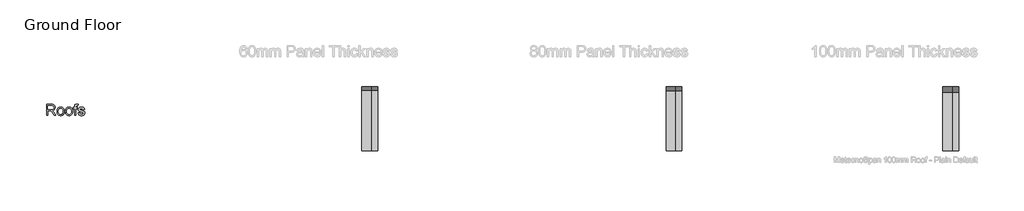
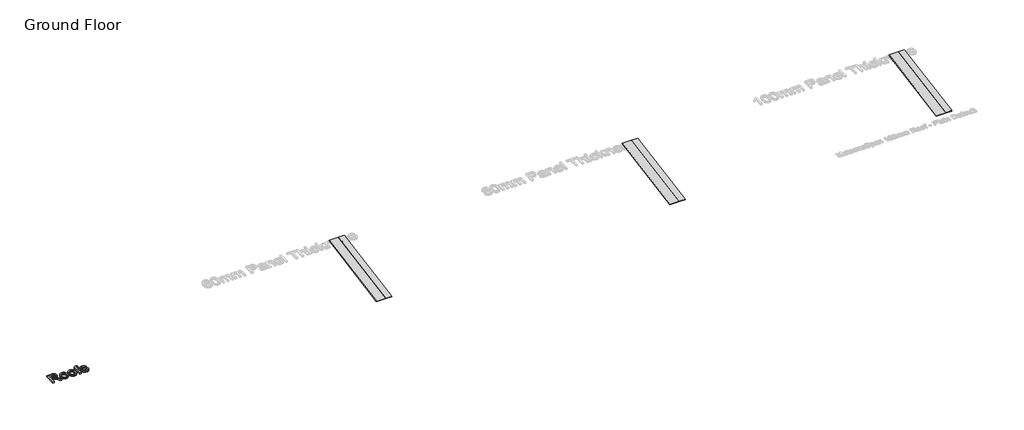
# One storey, part 1 of 5: 6 plates, 1 proxy.
"""IFC4 building model written with IfcOpenShell, lengths in millimetres."""

from ifc_helpers import new_model, si_unit, origin, origin_with_axes, place, context, project, spatial, polyline, outline, extrude, transform, mapped, element, save
from components import system_panel_77eb090d, system_panel_3f59478d, system_panel_bf3a755d, system_panel_f6465c84, system_panel_ab85e6cc, system_panel_8b37a0bf

model = new_model("IFC4")

# Units and contexts
model_context = context("Model", 3, world=origin())
ifc_project = project(units=[si_unit("LENGTHUNIT", "METRE", prefix="MILLI")], contexts=[model_context])

# Site, building, storey
site = spatial("IfcSite", under=ifc_project)
building = spatial("IfcBuilding", under=site)
storey = spatial("IfcBuildingStorey", under=building, Name="Ground Floor", Elevation=0.0)

# Proxy
placement = place(None, origin())
element("IfcBuildingElementProxy", 1, Name="1200mm Arial", ObjectType="1200mm Arial", at=placement, inside=storey, context=model_context, shape_type="SweptSolid", body=[
    extrude(outline(polyline([(-68339.0967284, -43768.1466097), (-68339.0967284, -42592.8738825), (-67832.6620693, -42592.8738825), (-67759.9696865, -42594.8555053), (-67696.5487881, -42600.8003739), (-67642.399374, -42610.7084883), (-67597.5214443, -42624.5798484), (-67559.3057128, -42643.4814819), (-67525.1428932, -42668.4804166), (-67495.0329855, -42699.5766524), (-67468.9759898, -42736.7701893), (-67447.9492675, -42778.0614712), (-67432.9301801, -42821.4509421), (-67423.9187277, -42866.9386019), (-67420.9149102, -42914.5244506), (-67425.8913839, -42974.8877319), (-67440.8208051, -43030.3014393), (-67465.7031737, -43080.7655728), (-67500.5384898, -43126.2801325), (-67521.8005858, -43146.818174), (-67545.7750842, -43165.3925259), (-67601.8612881, -43196.6501609), (-67668.7971013, -43220.0530373), (-67746.5825238, -43235.6011552), (-67698.1627795, -43267.2353881), (-67663.0853648, -43298.4392234), (-67602.9014159, -43369.8135131), (-67544.0086602, -43449.6522916), (-67348.0342284, -43768.1466097), (-67518.7586602, -43768.1466097), (-67671.6933193, -43524.5414961), (-67732.8815295, -43431.575587), (-67782.1620693, -43363.2858143), (-67823.2291858, -43316.2648626), (-67859.7771261, -43287.1054166), (-67894.3882767, -43269.9971069), (-67929.6450238, -43259.1295643), (-67964.0051091, -43255.2559847), (-68014.8637738, -43253.9647916), (-68192.1876375, -43253.9647916), (-68192.1876375, -43768.1466097), (-68339.0967284, -43768.1466097)]), holes=[polyline([(-68192.1876375, -43107.0557006), (-67863.3637738, -43107.0557006), (-67768.9273392, -43101.8550614), (-67729.64458, -43095.3542624), (-67695.6521261, -43086.2531438), (-67666.187815, -43074.2916737), (-67640.4894841, -43059.20982), (-67618.5571332, -43041.0075828), (-67600.3907625, -43019.684962), (-67586.1428044, -42996.2910522), (-67575.9656915, -42971.8749478), (-67569.8594237, -42946.4366488), (-67567.8240011, -42919.9761552), (-67571.7065473, -42882.4060203), (-67583.3541858, -42848.3149336), (-67602.7669166, -42817.7028953), (-67629.9447398, -42790.5699052), (-67665.5153186, -42768.3506225), (-67710.1063165, -42752.4797063), (-67763.7177334, -42742.9571566), (-67826.3495693, -42739.7829734), (-68192.1876375, -42739.7829734), (-68192.1876375, -43107.0557006)])]), origin_with_axes(), (0.0, 0.0, 1.0), 150.0),
    extrude(outline(polyline([(-67218.9149102, -43336.6011552), (-67216.928804, -43278.7799105), (-67210.9704855, -43224.8232788), (-67201.0399546, -43174.73126), (-67187.1372113, -43128.5038541), (-67169.2622557, -43086.1410611), (-67147.4150878, -43047.642881), (-67121.5957074, -43013.0093139), (-67091.8041148, -42982.2403597), (-67064.5366254, -42959.846228), (-67035.8165437, -42940.4379805), (-67005.6438697, -42924.0156172), (-66974.0186034, -42910.5791381), (-66940.9407447, -42900.1285433), (-66906.4102937, -42892.6638328), (-66832.9916148, -42886.6920643), (-66791.4963422, -42888.5100464), (-66751.9423427, -42893.9639926), (-66714.3296164, -42903.0539029), (-66678.6581631, -42915.7797774), (-66644.9279828, -42932.141616), (-66613.1390757, -42952.1394187), (-66583.2914416, -42975.7731856), (-66555.3850807, -43003.0429166), (-66530.132839, -43033.518214), (-66508.2475629, -43066.7686801), (-66489.7292524, -43102.7943148), (-66474.5779074, -43141.5951183), (-66462.7935279, -43183.1710904), (-66454.376114, -43227.5222312), (-66449.3256657, -43274.6485407), (-66447.6421829, -43324.5500188), (-66450.6191006, -43403.1872703), (-66459.5498534, -43472.9655018), (-66474.4344415, -43533.8847134), (-66495.2728648, -43585.9449052), (-66521.8050913, -43630.9125011), (-66553.7710892, -43670.5539251), (-66591.1708584, -43704.8691772), (-66634.0043988, -43733.8582575), (-66680.6039194, -43756.8935025), (-66729.301629, -43773.3472489), (-66780.0975274, -43783.2194968), (-66832.9916148, -43786.5102461), (-66875.1414505, -43784.698989), (-66915.2244805, -43779.2652177), (-66953.2407048, -43770.2089322), (-66989.1901233, -43757.5301325), (-67023.072736, -43741.2288185), (-67054.888543, -43721.3049904), (-67084.6375443, -43697.7586481), (-67112.3197398, -43670.5897916), (-67137.3029828, -43640.0136197), (-67158.9551268, -43606.2453313), (-67177.2761718, -43569.2849265), (-67192.2661176, -43529.1324052), (-67203.9249644, -43485.7877674), (-67212.2527121, -43439.2510131), (-67217.2493607, -43389.5221424), (-67218.9149102, -43336.6011552)]), holes=[polyline([(-67072.0058193, -43336.3142234), (-67067.7556417, -43407.5719471), (-67055.0051091, -43469.2712546), (-67033.7542213, -43521.412146), (-67004.0029784, -43563.9946211), (-66967.8137028, -43597.0724798), (-66927.248717, -43620.6995217), (-66882.308021, -43634.8757468), (-66832.9916148, -43639.6011552), (-66783.9262738, -43634.848847), (-66739.1649102, -43620.5919222), (-66698.7075238, -43596.830381), (-66662.5541148, -43563.5642234), (-66632.8028719, -43520.5603171), (-66611.5519841, -43467.5855302), (-66598.8014514, -43404.6398626), (-66594.5512738, -43331.7233143), (-66598.8283513, -43262.7251786), (-66611.6595835, -43202.6398626), (-66633.0449706, -43151.4673661), (-66662.9845125, -43109.2076893), (-66699.2724209, -43076.1298306), (-66739.7029074, -43052.5027887), (-66784.275972, -43038.3265636), (-66832.9916148, -43033.6011552), (-66882.308021, -43038.3086303), (-66927.248717, -43052.4310558), (-66967.8137028, -43075.9684315), (-67004.0029784, -43108.9207575), (-67033.7542213, -43151.3776999), (-67055.0051091, -43203.4289251), (-67067.7556417, -43265.0744329), (-67072.0058193, -43336.3142234)])]), origin_with_axes(), (0.0, 0.0, 1.0), 150.0),
    extrude(outline(polyline([(-66319.0967284, -43336.6011552), (-66317.1106222, -43278.7799105), (-66311.1523037, -43224.8232788), (-66301.2217728, -43174.73126), (-66287.3190295, -43128.5038541), (-66269.4440739, -43086.1410611), (-66247.596906, -43047.642881), (-66221.7775256, -43013.0093139), (-66191.9859329, -42982.2403597), (-66164.7184436, -42959.846228), (-66135.9983619, -42940.4379805), (-66105.8256879, -42924.0156172), (-66074.2004216, -42910.5791381), (-66041.1225629, -42900.1285433), (-66006.5921119, -42892.6638328), (-65933.1734329, -42886.6920643), (-65891.6781604, -42888.5100464), (-65852.1241609, -42893.9639926), (-65814.5114345, -42903.0539029), (-65778.8399812, -42915.7797774), (-65745.109801, -42932.141616), (-65713.3208939, -42952.1394187), (-65683.4732598, -42975.7731856), (-65655.5668988, -43003.0429166), (-65630.3146572, -43033.518214), (-65608.4293811, -43066.7686801), (-65589.9110705, -43102.7943148), (-65574.7597256, -43141.5951183), (-65562.9753461, -43183.1710904), (-65554.5579322, -43227.5222312), (-65549.5074839, -43274.6485407), (-65547.8240011, -43324.5500188), (-65550.8009187, -43403.1872703), (-65559.7316716, -43472.9655018), (-65574.6162596, -43533.8847134), (-65595.4546829, -43585.9449052), (-65621.9869095, -43630.9125011), (-65653.9529074, -43670.5539251), (-65691.3526765, -43704.8691772), (-65734.186217, -43733.8582575), (-65780.7857376, -43756.8935025), (-65829.4834471, -43773.3472489), (-65880.2793456, -43783.2194968), (-65933.1734329, -43786.5102461), (-65975.3232687, -43784.698989), (-66015.4062987, -43779.2652177), (-66053.422523, -43770.2089322), (-66089.3719415, -43757.5301325), (-66123.2545542, -43741.2288185), (-66155.0703612, -43721.3049904), (-66184.8193625, -43697.7586481), (-66212.5015579, -43670.5897916), (-66237.484801, -43640.0136197), (-66259.136945, -43606.2453313), (-66277.4579899, -43569.2849265), (-66292.4479358, -43529.1324052), (-66304.1067825, -43485.7877674), (-66312.4345302, -43439.2510131), (-66317.4311789, -43389.5221424), (-66319.0967284, -43336.6011552)]), holes=[polyline([(-66172.1876375, -43336.3142234), (-66167.9374599, -43407.5719471), (-66155.1869273, -43469.2712546), (-66133.9360395, -43521.412146), (-66104.1847966, -43563.9946211), (-66067.995521, -43597.0724798), (-66027.4305352, -43620.6995217), (-65982.4898392, -43634.8757468), (-65933.1734329, -43639.6011552), (-65884.108092, -43634.848847), (-65839.3467284, -43620.5919222), (-65798.889342, -43596.830381), (-65762.7359329, -43563.5642234), (-65732.98469, -43520.5603171), (-65711.7338023, -43467.5855302), (-65698.9832696, -43404.6398626), (-65694.733092, -43331.7233143), (-65699.0101694, -43262.7251786), (-65711.8414017, -43202.6398626), (-65733.2267888, -43151.4673661), (-65763.1663307, -43109.2076893), (-65799.454239, -43076.1298306), (-65839.8847256, -43052.5027887), (-65884.4577902, -43038.3265636), (-65933.1734329, -43033.6011552), (-65982.4898392, -43038.3086303), (-66027.4305352, -43052.4310558), (-66067.995521, -43075.9684315), (-66104.1847966, -43108.9207575), (-66133.9360395, -43151.3776999), (-66155.1869273, -43203.4289251), (-66167.9374599, -43265.0744329), (-66172.1876375, -43336.3142234)])]), origin_with_axes(), (0.0, 0.0, 1.0), 150.0),
    extrude(outline(polyline([(-65345.8240011, -43768.1466097), (-65345.8240011, -43051.9647916), (-65474.3694557, -43051.9647916), (-65474.3694557, -42905.0557006), (-65345.8240011, -42905.0557006), (-65345.8240011, -42818.1153597), (-65341.9504216, -42746.1672063), (-65330.3296829, -42695.5954734), (-65317.561217, -42669.8971424), (-65300.7757057, -42646.7453313), (-65279.9731488, -42626.1400401), (-65255.1535466, -42608.0812688), (-65225.7789017, -42593.3939464), (-65191.311217, -42582.9030018), (-65151.7504926, -42576.608435), (-65107.0967284, -42574.5102461), (-65043.3261318, -42578.5272916), (-64973.0995693, -42590.5784279), (-64994.6194557, -42728.3057006), (-65038.1613591, -42723.1409279), (-65079.264342, -42721.419337), (-65109.5804819, -42722.9436623), (-65135.1084471, -42727.5166381), (-65155.8482376, -42735.1382646), (-65171.7998534, -42745.8085416), (-65183.6626908, -42760.6393299), (-65192.136146, -42780.7424904), (-65197.2202192, -42806.1180231), (-65198.9149102, -42836.7659279), (-65198.9149102, -42905.0557006), (-65033.6421829, -42905.0557006), (-65033.6421829, -43051.9647916), (-65198.9149102, -43051.9647916), (-65198.9149102, -43768.1466097), (-65345.8240011, -43768.1466097)])), origin_with_axes(), (0.0, 0.0, 1.0), 150.0),
    extrude(outline(polyline([(-64960.1876375, -43511.0557006), (-64813.2785466, -43492.6920643), (-64804.4015935, -43526.1913541), (-64790.1088023, -43555.5301325), (-64770.400173, -43580.7083995), (-64745.2757057, -43601.7261552), (-64714.6636673, -43618.2964677), (-64678.492325, -43630.1324052), (-64636.7616787, -43637.2339677), (-64589.4717284, -43639.6011552), (-64542.2355778, -43637.4312333), (-64501.5271261, -43630.9214677), (-64467.3463733, -43620.0718583), (-64439.6933193, -43604.8824052), (-64418.3527653, -43586.7698342), (-64403.1095125, -43567.1508711), (-64393.9635608, -43546.025516), (-64390.9149102, -43523.3937688), (-64393.981494, -43503.5596069), (-64403.1812454, -43485.9491666), (-64418.5141645, -43470.5624478), (-64439.9802511, -43457.3994506), (-64494.9994273, -43438.7488825), (-64591.1933193, -43415.5074052), (-64725.2622113, -43376.7357433), (-64812.4177511, -43343.6309847), (-64842.3393598, -43327.0337724), (-64868.4053221, -43307.5134421), (-64890.6156382, -43285.069994), (-64908.9703079, -43259.7034279), (-64923.3437987, -43232.1759066), (-64933.6105778, -43203.2495927), (-64939.7706453, -43172.9244862), (-64941.8240011, -43141.200587), (-64940.1741432, -43112.1935735), (-64935.2245693, -43084.2804876), (-64926.9752795, -43057.4613292), (-64915.4262738, -43031.7360984), (-64901.0258832, -43007.624859), (-64884.2224386, -42985.6476751), (-64865.01594, -42965.8045465), (-64843.4063875, -42948.0954734), (-64802.8414017, -42924.4594649), (-64750.0100807, -42904.6253029), (-64688.9294699, -42891.1753739), (-64623.6166148, -42886.6920643), (-64574.2464088, -42888.4943548), (-64527.9965863, -42893.9012262), (-64484.8671474, -42902.9126786), (-64444.858092, -42915.528712), (-64408.9198818, -42931.2202958), (-64378.0029784, -42949.4583995), (-64352.1073818, -42970.2430231), (-64331.233092, -42993.5741666), (-64314.3041148, -43020.2677923), (-64300.2444557, -43051.1398626), (-64289.0541148, -43086.1903775), (-64280.733092, -43125.419337), (-64427.6421829, -43143.7829734), (-64434.6451126, -43119.2413363), (-64446.1851517, -43097.5510842), (-64462.2623001, -43078.712217), (-64482.8765579, -43062.7247347), (-64508.1175913, -43049.9831687), (-64538.0750665, -43040.8820501), (-64572.7489834, -43035.4213789), (-64612.139342, -43033.6011552), (-64657.8332341, -43035.3406793), (-64696.4972966, -43040.5592518), (-64728.1315295, -43049.2568725), (-64752.7359329, -43061.4335416), (-64771.1892355, -43075.9235984), (-64784.3701659, -43091.5613825), (-64792.2787241, -43108.3468938), (-64794.9149102, -43126.2801325), (-64790.5392, -43148.8760131), (-64777.4120693, -43169.0329734), (-64754.9596545, -43187.037945), (-64722.608092, -43201.4562688), (-64596.0711602, -43232.731837), (-64466.270379, -43271.1089677), (-64380.4418988, -43301.8824052), (-64350.242325, -43316.8925259), (-64323.4859329, -43334.9512972), (-64300.1727227, -43356.0587191), (-64280.3026943, -43380.2147916), (-64264.4228115, -43407.455381), (-64253.0800381, -43437.8163541), (-64246.274374, -43471.2977106), (-64244.0058193, -43507.8994506), (-64246.6689052, -43544.6625899), (-64254.6581631, -43580.3497347), (-64267.9735927, -43614.9608853), (-64286.6151943, -43648.4960416), (-64310.2781027, -43679.6191772), (-64338.6574528, -43706.994266), (-64371.7532447, -43730.6213079), (-64409.5654784, -43750.5003029), (-64451.0629926, -43766.2546531), (-64495.2146261, -43777.5077603), (-64542.020379, -43784.2596247), (-64591.4802511, -43786.5102461), (-64670.5479003, -43782.1704024), (-64739.6088023, -43769.1508711), (-64798.6629571, -43747.4516524), (-64847.7103648, -43717.0727461), (-64887.7732199, -43678.1576183), (-64919.873717, -43630.8497347), (-64944.0118562, -43575.1490955), (-64960.1876375, -43511.0557006)])), origin_with_axes(), (0.0, 0.0, 1.0), 150.0),
])

# Plates
system_panel_shape = system_panel_77eb090d(model_context)
element("IfcPlate", 2, ObjectType="System Panel : MetecnoSpan 60mm Roof - Plain Surfmist - PIR", at=placement, inside=storey, context=model_context, shape_type="MappedRepresentation", body=[
    mapped(system_panel_shape, transform((-34151.9897892, -47522.0759618, 0.0), x_axis=(1.0, 0.0, 0.0), y_axis=(0.0, 0.17364817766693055, -0.9848077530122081), z_axis=(0.0, 0.9848077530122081, 0.17364817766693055))),
])
system_panel_2_shape = system_panel_3f59478d(model_context)
element("IfcPlate", 3, ObjectType="System Panel : MetecnoSpan 60mm Roof - Plain Surfmist - PIR", at=placement, inside=storey, context=model_context, shape_type="MappedRepresentation", body=[
    mapped(system_panel_2_shape, transform((-33301.9897892, -47522.0759618, 0.0), x_axis=(1.0, 0.0, 0.0), y_axis=(0.0, 0.17364817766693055, -0.9848077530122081), z_axis=(0.0, 0.9848077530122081, 0.17364817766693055))),
])
system_panel_3_shape = system_panel_bf3a755d(model_context)
element("IfcPlate", 4, ObjectType="System Panel : MetecnoSpan 80mm Roof - Plain Surfmist - PIR", at=placement, inside=storey, context=model_context, shape_type="MappedRepresentation", body=[
    mapped(system_panel_3_shape, transform((-1677.3595261, -47532.4948525, 0.0), x_axis=(1.0, 0.0, 0.0), y_axis=(0.0, 0.17364817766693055, -0.9848077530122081), z_axis=(0.0, 0.9848077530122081, 0.17364817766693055))),
])
system_panel_4_shape = system_panel_f6465c84(model_context)
element("IfcPlate", 5, ObjectType="System Panel : MetecnoSpan 80mm Roof - Plain Surfmist - PIR", at=placement, inside=storey, context=model_context, shape_type="MappedRepresentation", body=[
    mapped(system_panel_4_shape, transform((-827.3595261, -47532.4948525, 0.0), x_axis=(1.0, 0.0, 0.0), y_axis=(0.0, 0.17364817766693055, -0.9848077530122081), z_axis=(0.0, 0.9848077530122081, 0.17364817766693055))),
])
system_panel_5_shape = system_panel_ab85e6cc(model_context)
element("IfcPlate", 6, ObjectType="System Panel : MetecnoSpan 100mm Roof - Plain Surfmist - PIR", at=placement, inside=storey, context=model_context, shape_type="MappedRepresentation", body=[
    mapped(system_panel_5_shape, transform((27871.7838579, -47515.1300347, 0.0), x_axis=(1.0, 0.0, 0.0), y_axis=(0.0, 0.17364817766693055, -0.9848077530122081), z_axis=(0.0, 0.9848077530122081, 0.17364817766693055))),
])
system_panel_6_shape = system_panel_8b37a0bf(model_context)
element("IfcPlate", 7, ObjectType="System Panel : MetecnoSpan 100mm Roof - Plain Surfmist - PIR", at=placement, inside=storey, context=model_context, shape_type="MappedRepresentation", body=[
    mapped(system_panel_6_shape, transform((28721.7838579, -47515.1300347, 0.0), x_axis=(1.0, 0.0, 0.0), y_axis=(0.0, 0.17364817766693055, -0.9848077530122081), z_axis=(0.0, 0.9848077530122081, 0.17364817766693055))),
])

save(model, "model.ifc")
